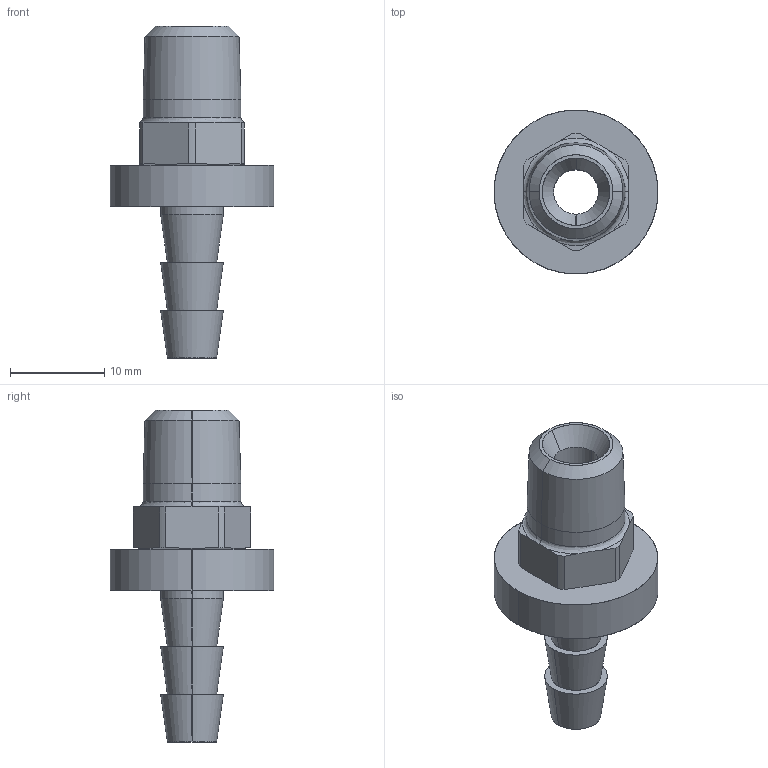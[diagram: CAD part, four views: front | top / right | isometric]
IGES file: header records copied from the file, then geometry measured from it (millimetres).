
Start section: SolidWorks IGES file using analytic representation for surfaces
Global section: file name: C:\Users\365admin\AppData\Local\Temp\InFlowXlateWorking\MB14-2-PL.igs; native system: SolidWorks 2018; preprocessor: SolidWorks 2018; author: 365admin; date: 200819.021325; units: inch
Bounding box: 17.4 x 17.4 x 35.26 mm (x, y, z)
Surface area: 2290.6 mm2 (no closed solid volume)
Topology: 0 solids, 0 shells, 54 faces, 840 edges, 840 vertices
Faces by surface type: revolution 38, bspline 16
